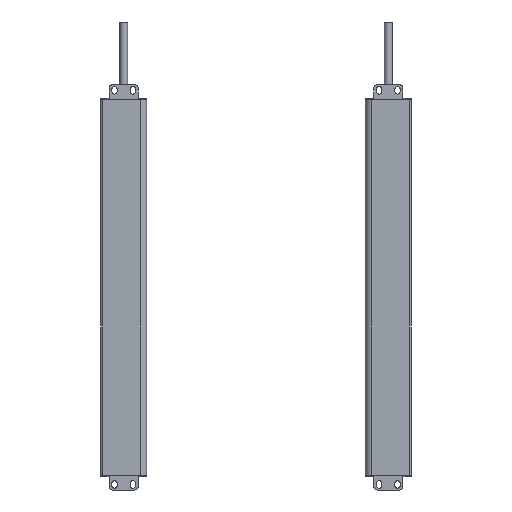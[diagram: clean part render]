
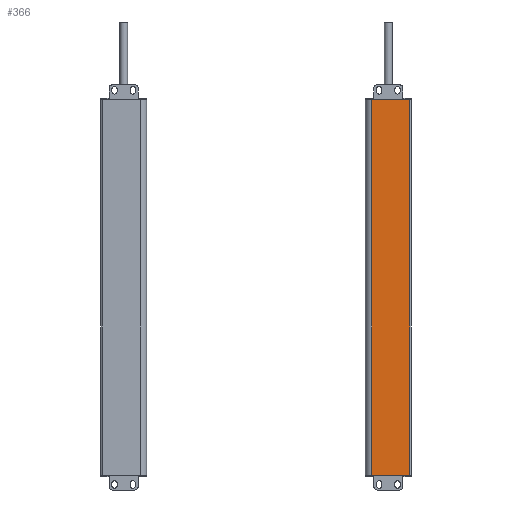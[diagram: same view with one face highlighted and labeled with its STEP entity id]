
A CAD part, front view. The second image highlights one B-rep face of the part: STEP entity #366.
In plain terms, the highlighted planar face has unit normal (0, -1, 0).
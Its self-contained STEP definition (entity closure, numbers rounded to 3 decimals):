
#123=PLANE('',#5869);
#366=ADVANCED_FACE('',(#797),#123,.T.);
#797=FACE_OUTER_BOUND('',#1073,.T.);
#1073=EDGE_LOOP('',(#1780,#1781,#1782,#1783));
#1780=ORIENTED_EDGE('',*,*,#3977,.T.);
#1781=ORIENTED_EDGE('',*,*,#3978,.F.);
#1782=ORIENTED_EDGE('',*,*,#3979,.F.);
#1783=ORIENTED_EDGE('',*,*,#3903,.T.);
#3351=VERTEX_POINT('',#8106);
#3352=VERTEX_POINT('',#8108);
#3421=VERTEX_POINT('',#8253);
#3422=VERTEX_POINT('',#8257);
#3903=EDGE_CURVE('',#3352,#3351,#4726,.T.);
#3977=EDGE_CURVE('',#3351,#3421,#4771,.T.);
#3978=EDGE_CURVE('',#3422,#3421,#4772,.T.);
#3979=EDGE_CURVE('',#3352,#3422,#4773,.T.);
#4726=LINE('',#8107,#5280);
#4771=LINE('',#8254,#5325);
#4772=LINE('',#8256,#5326);
#4773=LINE('',#8258,#5327);
#5280=VECTOR('',#6413,1.);
#5325=VECTOR('',#6522,1.);
#5326=VECTOR('',#6525,1.);
#5327=VECTOR('',#6526,1.);
#5869=AXIS2_PLACEMENT_3D('',#8259,#6527,#6528);
#6413=DIRECTION('',(1.,0.,0.));
#6522=DIRECTION('',(0.,0.,1.));
#6525=DIRECTION('',(1.,0.,0.));
#6526=DIRECTION('',(0.,0.,1.));
#6527=DIRECTION('',(0.,-1.,0.));
#6528=DIRECTION('',(-1.,0.,0.));
#8106=CARTESIAN_POINT('',(3.35,-1.3,-100.));
#8107=CARTESIAN_POINT('',(-21.15,-1.3,-100.));
#8108=CARTESIAN_POINT('',(-21.15,-1.3,-100.));
#8253=CARTESIAN_POINT('',(3.35,-1.3,142.));
#8254=CARTESIAN_POINT('',(3.35,-1.3,-100.));
#8256=CARTESIAN_POINT('',(-4122.897,-1.3,142.));
#8257=CARTESIAN_POINT('',(-21.15,-1.3,142.));
#8258=CARTESIAN_POINT('',(-21.15,-1.3,-100.));
#8259=CARTESIAN_POINT('',(-21.15,-1.3,-100.));
